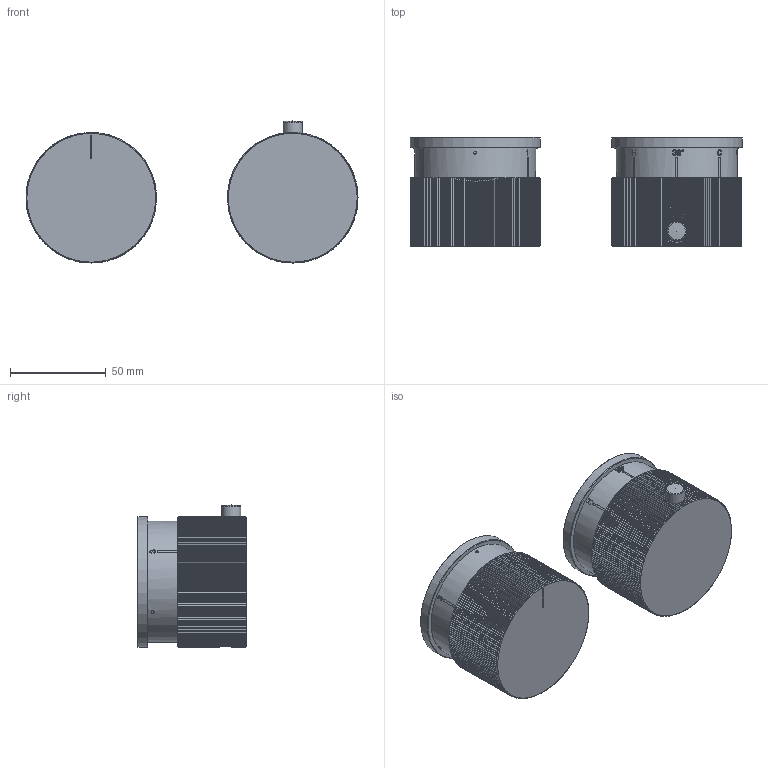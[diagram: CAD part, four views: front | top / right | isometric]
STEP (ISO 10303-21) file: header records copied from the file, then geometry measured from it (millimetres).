
FILE_DESCRIPTION(/* description */ ('Unknown'),/* implementation_level */ '2;1');
FILE_NAME(/* name */ 'RE027',/* time_stamp */ '2023-07-06T11:43:24+02:00',/* author */ ('Unknown'),/* organization */ ('Unknown'),/* preprocessor_version */ 'ST-DEVELOPER v18.102',/* originating_system */ 'Solid Edge',/* authorisation */ 'Unknown');
FILE_SCHEMA (('AUTOMOTIVE_DESIGN {1 0 10303 214 3 1 1}'));
Length unit declared in the file: millimetre
Products named in the file (8): RE027; RE027-010_oa_0; RE025-03; RE027-01; RE025-05; RE025-001_oa_1; RE025-06; RE025-07
Assembly tree (7 placements, depth 4):
  RE027
    RE027-010_oa_0
      RE025-03
      RE027-01
      RE025-05
      RE025-001_oa_1
        RE025-06
        RE025-07
Bounding box: 173 x 56.88 x 74 mm (x, y, z)
Volume: 84699.3 mm3; surface area: 85619.5 mm2
Topology: 5 solids, 5 shells, 2185 faces, 4953 edges, 2819 vertices
Faces by surface type: plane 907, cone 748, cylinder 483, bspline 45, sphere 1, torus 1
Full cylindrical faces by diameter (mm): 1.5 x3, 3.3 x8, 4.1 x1, 4.3 x1, 4.917 x2, 6 x1, 6.5 x2, 9.95 x1, 10 x2, 10.1 x1, 12.1 x2, 47.3 x4, 52.3 x2, 60 x2, 63 x2, 64.5 x2, 65 x2, 68 x2
Entity records: 78433 total; most frequent: CARTESIAN_POINT 17581, ORIENTED_EDGE 9662, DIRECTION 9230, EDGE_CURVE 4831, AXIS2_PLACEMENT_3D 3896, VERTEX_POINT 2772, FACE_BOUND 2299, EDGE_LOOP 2297
